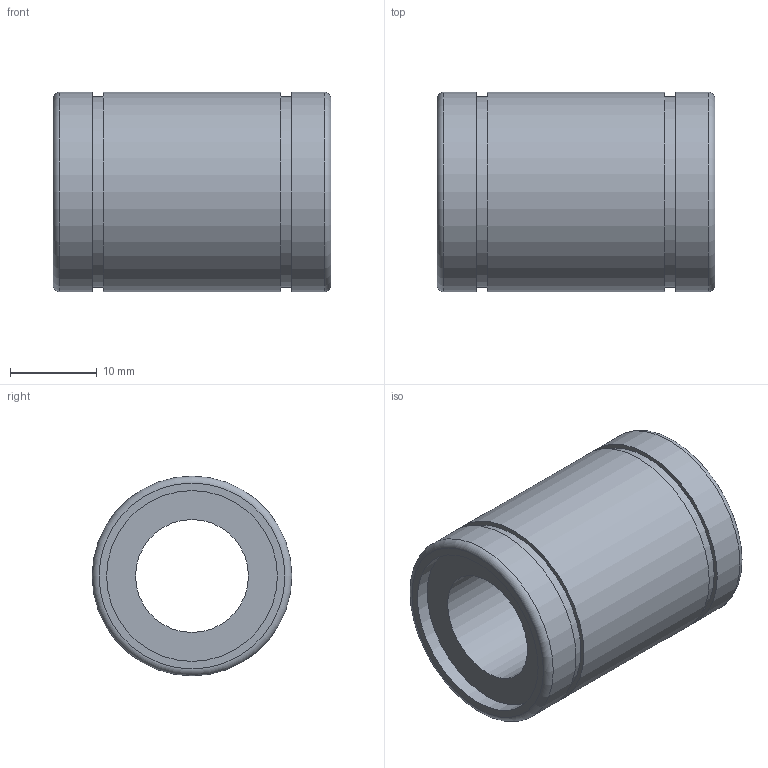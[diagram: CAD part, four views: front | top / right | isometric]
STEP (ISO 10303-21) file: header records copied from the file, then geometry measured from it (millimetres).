
FILE_DESCRIPTION( ( 'Unknown' ), '1' );
FILE_NAME( 'D:/累诀/己绕皋墨飘肺葱胶/11-04-06_档搁累己/01_府聪绢何教/LM/LM13.stp', 'Unknown', ( 'Unknown' ), ( 'Unknown' ), 'PSStep 11.0', 'Unknown', ' ' );
FILE_SCHEMA( ( 'AUTOMOTIVE_DESIGN { 1 0 10303 214 1 1 1 1 }' ) );
Length unit declared in the file: millimetre
Products named in the file (1): 1
Bounding box: 32 x 23 x 23 mm (x, y, z)
Volume: 8389.7 mm3; surface area: 4334.6 mm2
Topology: 1 solids, 1 shells, 18 faces, 29 edges, 19 vertices
Faces by surface type: plane 8, cylinder 8, torus 2
Full cylindrical faces by diameter (mm): 13 x1, 19.66 x2, 22 x2, 23 x3
Entity records: 528 total; most frequent: DIRECTION 74, CARTESIAN_POINT 55, AXIS2_PLACEMENT_3D 37, EDGE_LOOP 36, ORIENTED_EDGE 36, FACE_OUTER_BOUND 28, STYLED_ITEM 18, PRESENTATION_STYLE_ASSIGNMENT 18
